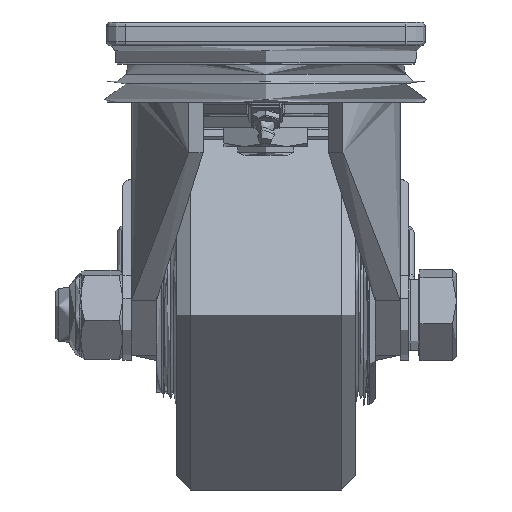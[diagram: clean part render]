
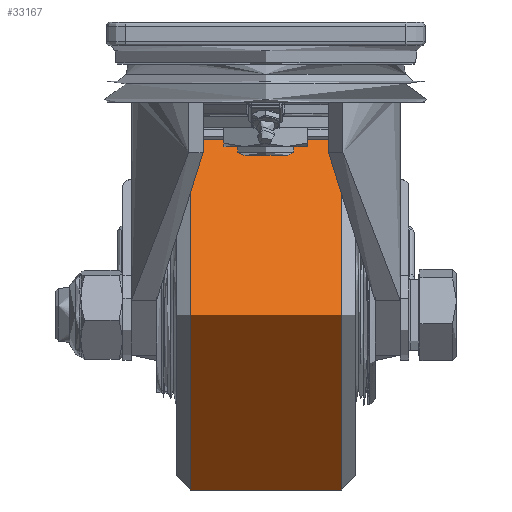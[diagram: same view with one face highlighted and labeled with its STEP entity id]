
A CAD part, left-side view. The second image highlights one B-rep face of the part: STEP entity #33167.
In plain terms, the highlighted cylindrical face has radius 62.5 mm (diameter 125 mm), a full revolution.
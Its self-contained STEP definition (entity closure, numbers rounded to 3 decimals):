
#6745=CYLINDRICAL_SURFACE('',#35253,62.5);
#8162=FACE_BOUND('',#10520,.T.);
#8468=FACE_OUTER_BOUND('',#10519,.T.);
#10519=EDGE_LOOP('',(#22809));
#10520=EDGE_LOOP('',(#22810));
#12863=CIRCLE('',#35252,62.5);
#12864=CIRCLE('',#35254,62.5);
#14345=VERTEX_POINT('',#47102);
#14346=VERTEX_POINT('',#47105);
#17660=EDGE_CURVE('',#14345,#14345,#12863,.T.);
#17661=EDGE_CURVE('',#14346,#14346,#12864,.T.);
#22809=ORIENTED_EDGE('',*,*,#17660,.T.);
#22810=ORIENTED_EDGE('',*,*,#17661,.F.);
#33167=ADVANCED_FACE('',(#8468,#8162),#6745,.T.);
#35252=AXIS2_PLACEMENT_3D('',#47103,#38388,#38389);
#35253=AXIS2_PLACEMENT_3D('',#47104,#38390,#38391);
#35254=AXIS2_PLACEMENT_3D('',#47106,#38392,#38393);
#38388=DIRECTION('center_axis',(0.,1.,0.));
#38389=DIRECTION('ref_axis',(1.,0.,0.));
#38390=DIRECTION('center_axis',(0.,1.,0.));
#38391=DIRECTION('ref_axis',(0.,0.,-1.));
#38392=DIRECTION('center_axis',(0.,1.,0.));
#38393=DIRECTION('ref_axis',(1.,0.,0.));
#47102=CARTESIAN_POINT('',(44.195,-27.,-137.));
#47103=CARTESIAN_POINT('Origin',(44.195,-27.,-74.5));
#47104=CARTESIAN_POINT('Origin',(44.195,0.,
-74.5));
#47105=CARTESIAN_POINT('',(44.195,27.,-137.));
#47106=CARTESIAN_POINT('Origin',(44.195,27.,-74.5));
